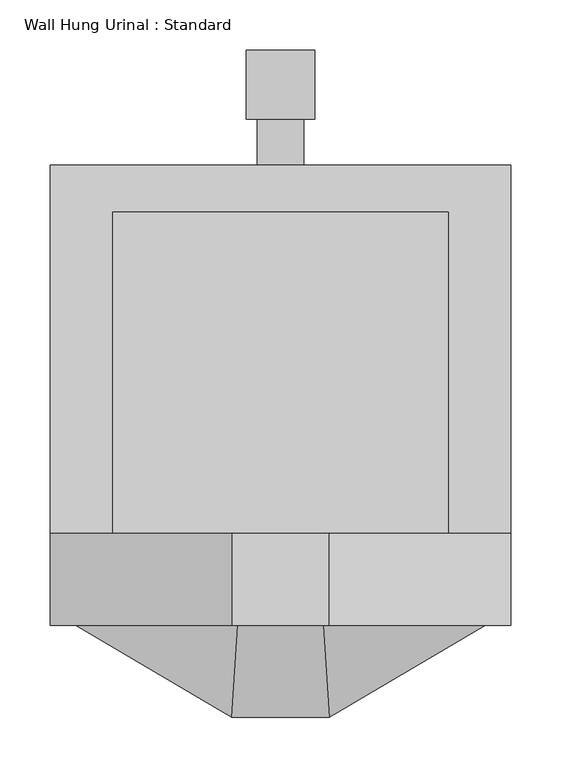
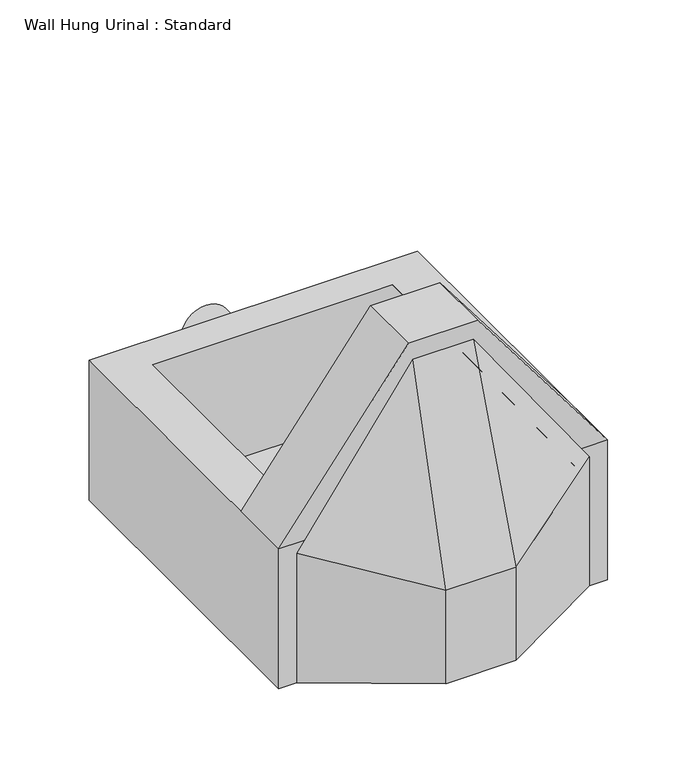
"""IFC4 building model written with IfcOpenShell, lengths in millimetres: flow terminal geometry, Wall Hung Urinal : Standard."""

from ifc_helpers import new_model, si_unit, point, frame, frame_2d, origin, place, context, project, spatial, polyline, circle_curve, trimmed, segment, composite_curve, outline, extrude, faceted_brep, source, transform, mapped, element, save


def wall_hung_urinal_standard_f329d971(model_context):
    return source(origin(), model_context, "Body", "SolidModel", [
        extrude(outline(composite_curve([segment(trimmed(circle_curve(frame_2d((102.790625, 0.0)), 34.13125), [point((102.790625, -34.13125))], [point((102.790625, 34.13125))], False, "CARTESIAN"), True, "CONTINUOUS"), segment(trimmed(circle_curve(frame_2d((102.790625, 0.0)), 34.13125), [point((102.790625, 34.13125))], [point((102.790625, -34.13125))], False, "CARTESIAN"), True, "CONTINUOUS")], self_intersect=False)), frame((0.0, 411.95625, 0.0), z_axis=(0.0, 1.0, 0.0), x_axis=(0.0, 0.0, 1.0)), (0.0, 0.0, 1.0), 68.2625),
        extrude(outline(composite_curve([segment(trimmed(circle_curve(frame_2d((102.790625, 0.0)), 23.01875), [point((102.790625, -23.01875))], [point((102.790625, 23.01875))], False, "CARTESIAN"), True, "CONTINUOUS"), segment(trimmed(circle_curve(frame_2d((102.790625, 0.0)), 23.01875), [point((102.790625, 23.01875))], [point((102.790625, -23.01875))], False, "CARTESIAN"), True, "CONTINUOUS")], self_intersect=False)), frame((0.0, 365.91875, 0.0), z_axis=(0.0, 1.0, 0.0), x_axis=(0.0, 0.0, 1.0)), (0.0, 0.0, 1.0), 46.0375),
        faceted_brep([(48.41875, -182.5625, 137.31875), (-48.41875, -182.5625, 137.31875), (-48.41875, -182.5625, 0.0), (48.41875, -182.5625, 0.0), (42.2440077, -91.28125, 419.1), (203.2, -91.28125, 190.115675), (203.2, -91.28125, 0.0), (-203.2, -91.28125, 0.0), (-203.2, -91.28125, 190.115675), (-42.2440077, -91.28125, 419.1), (-182.5625, -91.28125, 183.5881239), (-182.5625, -91.28125, 25.4), (182.5625, -91.28125, 25.4), (182.5625, -91.28125, 183.5881239), (31.5245701, -91.28125, 398.4625), (-31.5245701, -91.28125, 398.4625), (-48.41875, -161.925, 116.68125), (48.41875, -161.925, 116.68125), (48.41875, -161.925, 25.4), (-48.41875, -161.925, 25.4)], [[[0, 1, 2, 3]], [[4, 5, 6, 7, 8, 9], [10, 11, 12, 13, 14, 15]], [[1, 0, 4, 9]], [[9, 8, 1]], [[2, 1, 8, 7]], [[3, 2, 7, 6]], [[0, 3, 6, 5]], [[5, 4, 0]], [[16, 17, 18, 19]], [[16, 19, 11, 10]], [[19, 18, 12, 11]], [[18, 17, 13, 12]], [[13, 17, 14]], [[17, 16, 15, 14]], [[16, 10, 15]]]),
        extrude(outline(polyline([(444.5, -48.41875), (205.58125, -228.6), (205.58125, -167.1032521), (398.4625, -31.5245701), (398.4625, 31.5245701), (205.58125, 167.1032521), (205.58125, 228.6), (444.5, 48.41875), (444.5, -48.41875)])), frame((0.0, -91.28125, 0.0), z_axis=(0.0, 1.0, 0.0), x_axis=(0.0, 0.0, 1.0)), (0.0, 0.0, 1.0), 91.28125),
        faceted_brep([(228.6, 365.91875, 205.58125), (-228.6, 365.91875, 205.58125), (-228.6, -91.28125, 205.58125), (-167.1032521, -91.28125, 205.58125), (-167.1032521, 319.88125, 205.58125), (167.1032521, 319.88125, 205.58125), (167.1032521, -91.28125, 205.58125), (228.6, -91.28125, 205.58125), (228.6, -91.28125, 0.0), (-228.6, -91.28125, 0.0), (-228.6, 365.91875, 0.0), (228.6, 365.91875, 0.0), (182.5625, -91.28125, 183.5881239), (182.5625, -91.28125, 25.4), (-182.5625, -91.28125, 25.4), (-182.5625, -91.28125, 183.5881239), (-182.5625, 319.88125, 183.5881239), (-182.5625, 319.88125, 25.4), (182.5625, 319.88125, 25.4), (182.5625, 319.88125, 183.5881239)], [[[0, 1, 2, 3, 4, 5, 6, 7]], [[8, 9, 10, 11]], [[9, 2, 1, 10]], [[9, 8, 7, 6, 12, 13, 14, 15, 3, 2]], [[7, 8, 11, 0]], [[1, 0, 11, 10]], [[16, 17, 18, 19, 5, 4]], [[19, 12, 6, 5]], [[15, 16, 4, 3]], [[17, 16, 15, 14]], [[18, 17, 14, 13]], [[19, 18, 13, 12]]]),
    ])


if __name__ == "__main__":
    model = new_model("IFC4")
    model_context = context("Model", 3, world=origin())
    ifc_project = project(units=[si_unit("LENGTHUNIT", "METRE", prefix="MILLI")], contexts=[model_context])
    site = spatial("IfcSite", under=ifc_project)
    building = spatial("IfcBuilding", under=site)
    placement = place(None, origin())
    wall_hung_urinal_standard_shape = wall_hung_urinal_standard_f329d971(model_context)
    element("IfcFlowTerminal", 1, ObjectType="Wall Hung Urinal : Standard", at=placement, inside=building, context=model_context, shape_type="MappedRepresentation", body=[
        mapped(wall_hung_urinal_standard_shape, transform((0.0, 0.0, 0.0), x_axis=(1.0, 0.0, 0.0), y_axis=(0.0, 1.0, 0.0), z_axis=(0.0, 0.0, 1.0))),
    ])
    save(model, "model.ifc")
